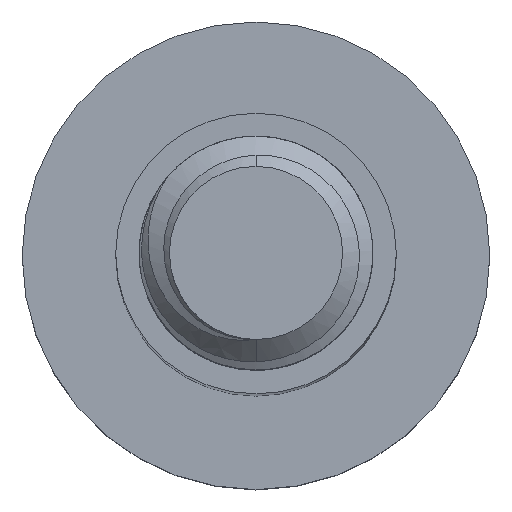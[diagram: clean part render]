
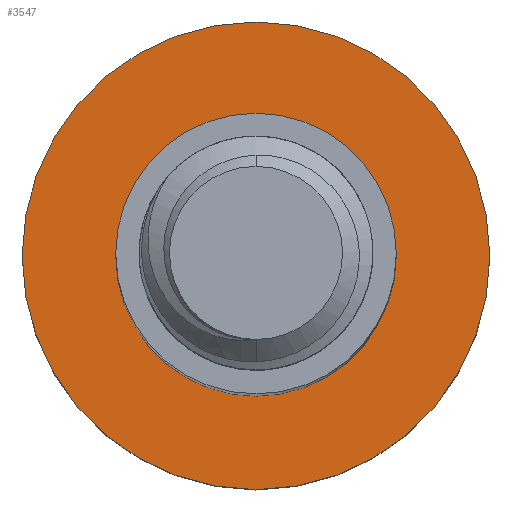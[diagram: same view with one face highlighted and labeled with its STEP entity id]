
A CAD part, top view. The second image highlights one B-rep face of the part: STEP entity #3547.
In plain terms, the highlighted planar face has unit normal (0, 0, 1).
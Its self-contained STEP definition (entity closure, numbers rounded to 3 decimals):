
#39 = ORIENTED_EDGE ( 'NONE', *, *, #3081, .F. ) ;
#52 = CIRCLE ( 'NONE', #334, 10. ) ;
#62 = CARTESIAN_POINT ( 'NONE',  ( 0., 0., -55. ) ) ;
#129 = CARTESIAN_POINT ( 'NONE',  ( -6., 0., -55. ) ) ;
#136 = EDGE_CURVE ( 'NONE', #1613, #3330, #2441, .T. ) ;
#334 = AXIS2_PLACEMENT_3D ( 'NONE', #62, #610, #1706 ) ;
#354 = DIRECTION ( 'NONE',  ( 0., 0., -1. ) ) ;
#422 = EDGE_LOOP ( 'NONE', ( #1396, #2187 ) ) ;
#500 = PLANE ( 'NONE',  #1475 ) ;
#610 = DIRECTION ( 'NONE',  ( 0., 0., -1. ) ) ;
#614 = EDGE_CURVE ( 'NONE', #3330, #1613, #1922, .T. ) ;
#780 = DIRECTION ( 'NONE',  ( 0., 0., -1. ) ) ;
#848 = DIRECTION ( 'NONE',  ( -1., 0., 0. ) ) ;
#1028 = DIRECTION ( 'NONE',  ( -1., 0., 0. ) ) ;
#1052 = CARTESIAN_POINT ( 'NONE',  ( -10., 0., -55. ) ) ;
#1096 = CARTESIAN_POINT ( 'NONE',  ( 0., 0., -55. ) ) ;
#1243 = EDGE_CURVE ( 'NONE', #2700, #2727, #1754, .T. ) ;
#1286 = CARTESIAN_POINT ( 'NONE',  ( 10., 0., -55. ) ) ;
#1386 = DIRECTION ( 'NONE',  ( -1., 0., 0. ) ) ;
#1396 = ORIENTED_EDGE ( 'NONE', *, *, #614, .T. ) ;
#1475 = AXIS2_PLACEMENT_3D ( 'NONE', #2386, #2987, #1595 ) ;
#1568 = ORIENTED_EDGE ( 'NONE', *, *, #1243, .F. ) ;
#1595 = DIRECTION ( 'NONE',  ( -1., 0., 0. ) ) ;
#1613 = VERTEX_POINT ( 'NONE', #1694 ) ;
#1624 = DIRECTION ( 'NONE',  ( 0., 0., -1. ) ) ;
#1634 = AXIS2_PLACEMENT_3D ( 'NONE', #2402, #780, #1028 ) ;
#1694 = CARTESIAN_POINT ( 'NONE',  ( 6., 0., -55. ) ) ;
#1706 = DIRECTION ( 'NONE',  ( -1., 0., 0. ) ) ;
#1726 = EDGE_LOOP ( 'NONE', ( #39, #1568 ) ) ;
#1754 = CIRCLE ( 'NONE', #3191, 10. ) ;
#1922 = CIRCLE ( 'NONE', #3188, 6. ) ;
#2118 = FACE_BOUND ( 'NONE', #422, .T. ) ;
#2172 = FACE_OUTER_BOUND ( 'NONE', #1726, .T. ) ;
#2187 = ORIENTED_EDGE ( 'NONE', *, *, #136, .T. ) ;
#2386 = CARTESIAN_POINT ( 'NONE',  ( 0., 0., -55. ) ) ;
#2402 = CARTESIAN_POINT ( 'NONE',  ( 0., 0., -55. ) ) ;
#2441 = CIRCLE ( 'NONE', #1634, 6. ) ;
#2700 = VERTEX_POINT ( 'NONE', #1052 ) ;
#2727 = VERTEX_POINT ( 'NONE', #1286 ) ;
#2987 = DIRECTION ( 'NONE',  ( 0., 0., -1. ) ) ;
#3070 = CARTESIAN_POINT ( 'NONE',  ( 0., 0., -55. ) ) ;
#3081 = EDGE_CURVE ( 'NONE', #2727, #2700, #52, .T. ) ;
#3188 = AXIS2_PLACEMENT_3D ( 'NONE', #1096, #1624, #1386 ) ;
#3191 = AXIS2_PLACEMENT_3D ( 'NONE', #3070, #354, #848 ) ;
#3330 = VERTEX_POINT ( 'NONE', #129 ) ;
#3547 = ADVANCED_FACE ( 'NONE', ( #2118, #2172 ), #500, .F. ) ;
